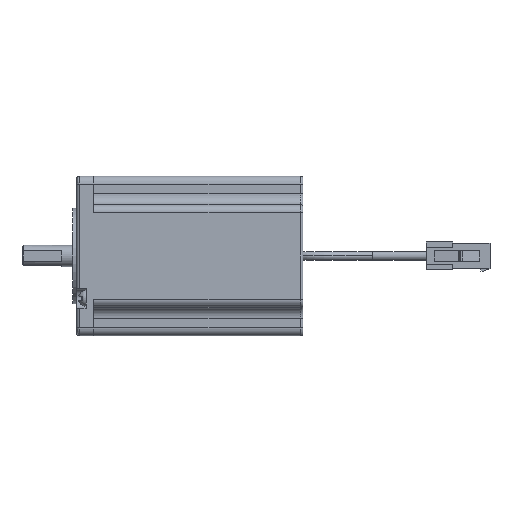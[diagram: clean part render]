
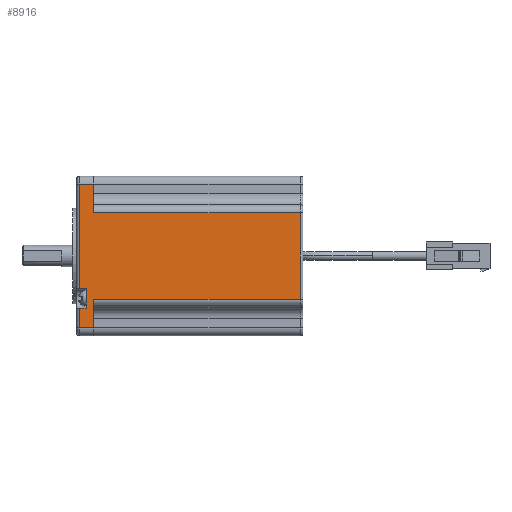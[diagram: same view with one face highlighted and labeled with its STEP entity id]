
A CAD part, front view. The second image highlights one B-rep face of the part: STEP entity #8916.
In plain terms, the highlighted planar face has unit normal (0, -1, 0) as drawn and (0, 1, 0) by its records, which use the part's own axes.
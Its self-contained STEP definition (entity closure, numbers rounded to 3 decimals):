
#42 = AXIS2_PLACEMENT_3D ( 'NONE', #2370, #4657, #58 ) ;
#58 = DIRECTION ( 'NONE',  ( 0., 0., 1. ) ) ;
#263 = LINE ( 'NONE', #1403, #4125 ) ;
#389 = CARTESIAN_POINT ( 'NONE',  ( 89.176, 215.692, -205.7 ) ) ;
#545 = CARTESIAN_POINT ( 'NONE',  ( 42.576, 215.692, -208.5 ) ) ;
#563 = LINE ( 'NONE', #2614, #4417 ) ;
#586 = EDGE_CURVE ( 'NONE', #1827, #3532, #4381, .T. ) ;
#591 = DIRECTION ( 'NONE',  ( -1., 0., 0. ) ) ;
#805 = PLANE ( 'NONE',  #42 ) ;
#878 = CARTESIAN_POINT ( 'NONE',  ( 92.176, 215.692, -128. ) ) ;
#892 = VECTOR ( 'NONE', #2454, 1000. ) ;
#934 = VECTOR ( 'NONE', #7131, 1000. ) ;
#1289 = EDGE_LOOP ( 'NONE', ( #9338, #7006, #4881, #8705, #4737, #9166, #8075, #6945, #7366, #2804, #7356, #3845 ) ) ;
#1306 = VERTEX_POINT ( 'NONE', #2200 ) ;
#1336 = DIRECTION ( 'NONE',  ( 0., 0., -1. ) ) ;
#1403 = CARTESIAN_POINT ( 'NONE',  ( 35.176, 215.692, -212. ) ) ;
#1521 = CARTESIAN_POINT ( 'NONE',  ( 49.976, 215.692, -208.5 ) ) ;
#1827 = VERTEX_POINT ( 'NONE', #3107 ) ;
#1839 = EDGE_CURVE ( 'NONE', #2222, #4064, #563, .T. ) ;
#1921 = CARTESIAN_POINT ( 'NONE',  ( 78.476, 215.692, -212. ) ) ;
#1975 = EDGE_CURVE ( 'NONE', #2222, #3571, #9007, .T. ) ;
#1982 = DIRECTION ( 'NONE',  ( 0., 0., 1. ) ) ;
#2001 = DIRECTION ( 'NONE',  ( 0., 0., -1. ) ) ;
#2200 = CARTESIAN_POINT ( 'NONE',  ( 42.576, 215.692, -211. ) ) ;
#2222 = VERTEX_POINT ( 'NONE', #8682 ) ;
#2370 = CARTESIAN_POINT ( 'NONE',  ( 92.176, 215.692, -212. ) ) ;
#2410 = LINE ( 'NONE', #4423, #7844 ) ;
#2454 = DIRECTION ( 'NONE',  ( 1., 0., 0. ) ) ;
#2614 = CARTESIAN_POINT ( 'NONE',  ( 31.641, 215.692, -205.7 ) ) ;
#2804 = ORIENTED_EDGE ( 'NONE', *, *, #5351, .T. ) ;
#2828 = DIRECTION ( 'NONE',  ( -1., 0., 0. ) ) ;
#2939 = VECTOR ( 'NONE', #8367, 1000. ) ;
#3017 = CARTESIAN_POINT ( 'NONE',  ( 89.176, 215.692, -212. ) ) ;
#3107 = CARTESIAN_POINT ( 'NONE',  ( 89.176, 215.692, -211. ) ) ;
#3189 = DIRECTION ( 'NONE',  ( 0., 0., -1. ) ) ;
#3532 = VERTEX_POINT ( 'NONE', #9422 ) ;
#3545 = VECTOR ( 'NONE', #3189, 1000. ) ;
#3571 = VERTEX_POINT ( 'NONE', #7944 ) ;
#3620 = VERTEX_POINT ( 'NONE', #5760 ) ;
#3709 = EDGE_CURVE ( 'NONE', #6237, #1827, #3776, .T. ) ;
#3760 = VECTOR ( 'NONE', #9516, 1000. ) ;
#3776 = LINE ( 'NONE', #3017, #3545 ) ;
#3845 = ORIENTED_EDGE ( 'NONE', *, *, #1839, .F. ) ;
#3881 = EDGE_CURVE ( 'NONE', #4064, #7613, #263, .T. ) ;
#3980 = VERTEX_POINT ( 'NONE', #545 ) ;
#4064 = VERTEX_POINT ( 'NONE', #7106 ) ;
#4125 = VECTOR ( 'NONE', #1336, 1000. ) ;
#4144 = LINE ( 'NONE', #1921, #7779 ) ;
#4381 = LINE ( 'NONE', #8034, #5839 ) ;
#4417 = VECTOR ( 'NONE', #2828, 1000. ) ;
#4423 = CARTESIAN_POINT ( 'NONE',  ( 92.176, 215.692, -208.5 ) ) ;
#4582 = EDGE_CURVE ( 'NONE', #3620, #8902, #4144, .T. ) ;
#4605 = VERTEX_POINT ( 'NONE', #1521 ) ;
#4657 = DIRECTION ( 'NONE',  ( 0., 1., 0. ) ) ;
#4693 = EDGE_CURVE ( 'NONE', #8902, #6237, #7108, .T. ) ;
#4737 = ORIENTED_EDGE ( 'NONE', *, *, #3709, .T. ) ;
#4881 = ORIENTED_EDGE ( 'NONE', *, *, #4582, .T. ) ;
#4936 = CARTESIAN_POINT ( 'NONE',  ( 92.176, 215.692, -211. ) ) ;
#5028 = DIRECTION ( 'NONE',  ( -1., 0., 0. ) ) ;
#5351 = EDGE_CURVE ( 'NONE', #1306, #7613, #7644, .T. ) ;
#5710 = CARTESIAN_POINT ( 'NONE',  ( 49.976, 215.692, -212. ) ) ;
#5760 = CARTESIAN_POINT ( 'NONE',  ( 78.476, 215.692, -128. ) ) ;
#5839 = VECTOR ( 'NONE', #8147, 1000. ) ;
#5843 = EDGE_CURVE ( 'NONE', #3980, #1306, #9489, .T. ) ;
#6119 = LINE ( 'NONE', #5710, #7835 ) ;
#6237 = VERTEX_POINT ( 'NONE', #389 ) ;
#6239 = FACE_OUTER_BOUND ( 'NONE', #1289, .T. ) ;
#6653 = EDGE_CURVE ( 'NONE', #3571, #3620, #8760, .T. ) ;
#6673 = CARTESIAN_POINT ( 'NONE',  ( 45.876, 215.692, -212. ) ) ;
#6945 = ORIENTED_EDGE ( 'NONE', *, *, #8264, .T. ) ;
#7006 = ORIENTED_EDGE ( 'NONE', *, *, #6653, .T. ) ;
#7106 = CARTESIAN_POINT ( 'NONE',  ( 35.176, 215.692, -205.7 ) ) ;
#7108 = LINE ( 'NONE', #8635, #2939 ) ;
#7131 = DIRECTION ( 'NONE',  ( 0., 0., 1. ) ) ;
#7264 = CARTESIAN_POINT ( 'NONE',  ( 35.176, 215.692, -211. ) ) ;
#7356 = ORIENTED_EDGE ( 'NONE', *, *, #3881, .F. ) ;
#7366 = ORIENTED_EDGE ( 'NONE', *, *, #5843, .T. ) ;
#7513 = CARTESIAN_POINT ( 'NONE',  ( 78.476, 215.692, -205.7 ) ) ;
#7613 = VERTEX_POINT ( 'NONE', #7264 ) ;
#7644 = LINE ( 'NONE', #4936, #9285 ) ;
#7779 = VECTOR ( 'NONE', #2001, 1000. ) ;
#7835 = VECTOR ( 'NONE', #1982, 1000. ) ;
#7844 = VECTOR ( 'NONE', #591, 1000. ) ;
#7944 = CARTESIAN_POINT ( 'NONE',  ( 45.876, 215.692, -128. ) ) ;
#8034 = CARTESIAN_POINT ( 'NONE',  ( 92.176, 215.692, -211. ) ) ;
#8075 = ORIENTED_EDGE ( 'NONE', *, *, #8723, .T. ) ;
#8147 = DIRECTION ( 'NONE',  ( -1., 0., 0. ) ) ;
#8264 = EDGE_CURVE ( 'NONE', #4605, #3980, #2410, .T. ) ;
#8367 = DIRECTION ( 'NONE',  ( 1., 0., 0. ) ) ;
#8635 = CARTESIAN_POINT ( 'NONE',  ( 92.176, 215.692, -205.7 ) ) ;
#8682 = CARTESIAN_POINT ( 'NONE',  ( 45.876, 215.692, -205.7 ) ) ;
#8705 = ORIENTED_EDGE ( 'NONE', *, *, #4693, .T. ) ;
#8723 = EDGE_CURVE ( 'NONE', #3532, #4605, #6119, .T. ) ;
#8760 = LINE ( 'NONE', #878, #892 ) ;
#8813 = CARTESIAN_POINT ( 'NONE',  ( 42.576, 215.692, -212. ) ) ;
#8902 = VERTEX_POINT ( 'NONE', #7513 ) ;
#8916 = ADVANCED_FACE ( 'NONE', ( #6239 ), #805, .T. ) ;
#9007 = LINE ( 'NONE', #6673, #934 ) ;
#9166 = ORIENTED_EDGE ( 'NONE', *, *, #586, .T. ) ;
#9285 = VECTOR ( 'NONE', #5028, 1000. ) ;
#9338 = ORIENTED_EDGE ( 'NONE', *, *, #1975, .T. ) ;
#9422 = CARTESIAN_POINT ( 'NONE',  ( 49.976, 215.692, -211. ) ) ;
#9489 = LINE ( 'NONE', #8813, #3760 ) ;
#9516 = DIRECTION ( 'NONE',  ( 0., 0., -1. ) ) ;
